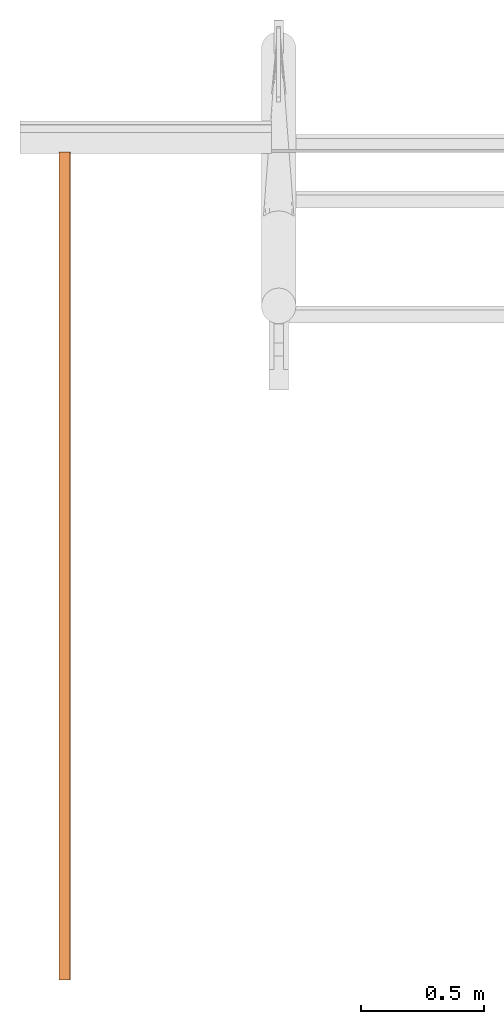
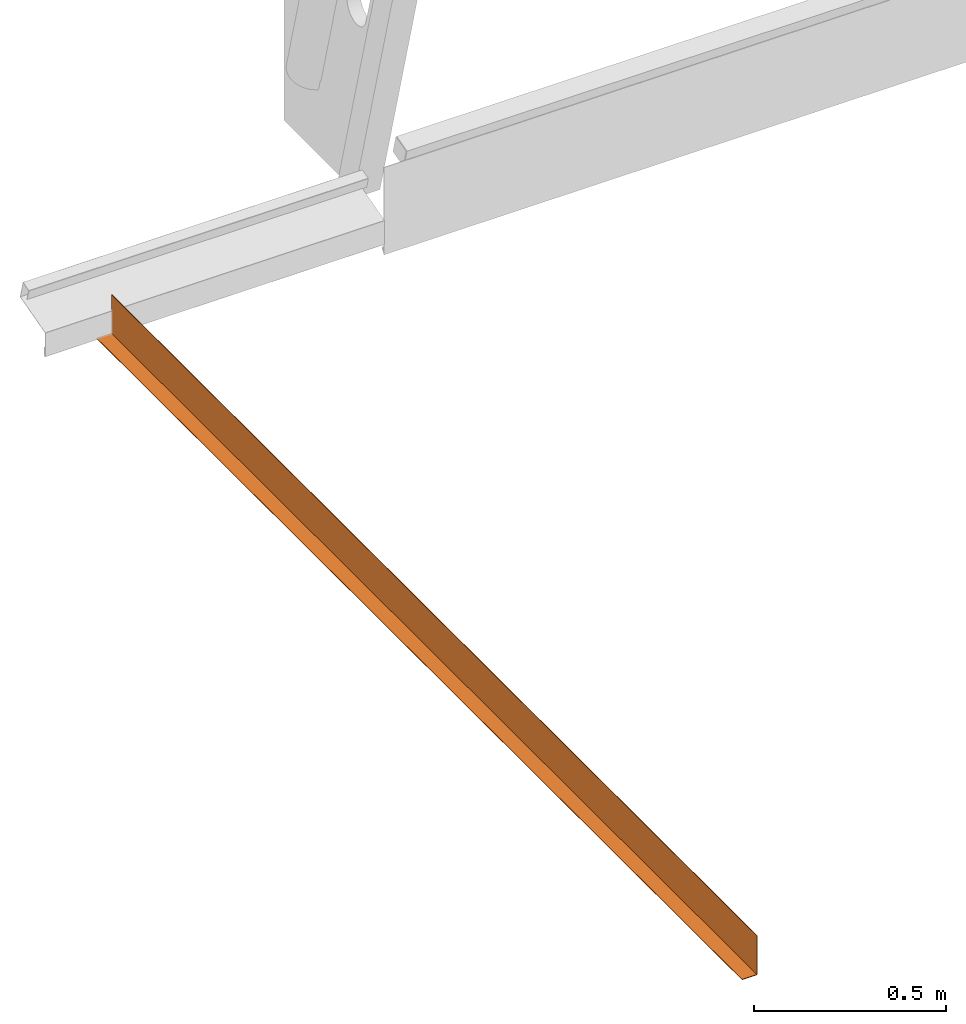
# One storey, part 2 of 3: 1 proxy.
"""IFC2X3 building model written with IfcOpenShell, lengths in millimetres."""

from ifc_helpers import new_model, entity, si_unit, converted_unit, derived_unit, direction, frame, origin, origin_with_axes, place, context, subcontext, project, spatial, faceted_brep, material, type_object, element, save


model = new_model("IFC2X3")

# Units and contexts
model_context = context("Model", 3, precision=0.01, world=origin(), true_north=direction((6.12303176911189e-17, 1.0)))
plan_context = context("Plan", 3, precision=1e-05, world=origin_with_axes())
body_context = subcontext(model_context, "Body", "Model", "MODEL_VIEW")
ifc_project = project(units=[converted_unit("PLANEANGLEUNIT", "DEGREE", entity("IfcPositiveLengthMeasure", 0.0174532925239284), si_unit("PLANEANGLEUNIT", "RADIAN"), dimensions=[0, 0, 0, 0, 0, 0, 0]), si_unit("AREAUNIT", "SQUARE_METRE"), si_unit("LENGTHUNIT", "METRE", prefix="MILLI"), si_unit("MASSUNIT", "GRAM", prefix="KILO"), si_unit("POWERUNIT", "WATT"), si_unit("PRESSUREUNIT", "PASCAL"), si_unit("FORCEUNIT", "NEWTON", prefix="KILO"), si_unit("ELECTRICVOLTAGEUNIT", "VOLT"), si_unit("ELECTRICCURRENTUNIT", "AMPERE"), si_unit("THERMODYNAMICTEMPERATUREUNIT", "DEGREE_CELSIUS"), si_unit("TIMEUNIT", "SECOND"), si_unit("VOLUMEUNIT", "CUBIC_METRE"), derived_unit("LINEARVELOCITYUNIT", [(si_unit("LENGTHUNIT", "METRE"), 1), (si_unit("TIMEUNIT", "SECOND"), -1)]), derived_unit("VOLUMETRICFLOWRATEUNIT", [(si_unit("VOLUMEUNIT", "CUBIC_METRE"), 1), (si_unit("TIMEUNIT", "SECOND"), -1)]), derived_unit("THERMALTRANSMITTANCEUNIT", [(si_unit("POWERUNIT", "WATT"), 1), (si_unit("THERMODYNAMICTEMPERATUREUNIT", "KELVIN"), -1), (si_unit("AREAUNIT", "SQUARE_METRE"), -1)]), derived_unit("SOUNDPRESSUREUNIT", [(si_unit("PRESSUREUNIT", "PASCAL"), 1)])], contexts=[model_context, plan_context])

# Site, building, storey
site_placement = place(None, frame((2314154.5009392, 1029894.10887124, 0.0), z_axis=(0.0, 0.0, 1.0), x_axis=(1.0, 0.0, 0.0)))
site = spatial("IfcSite", under=ifc_project, at=site_placement, Name="Default", CompositionType="ELEMENT")
building_placement = place(site_placement, origin_with_axes())
building = spatial("IfcBuilding", under=site, at=building_placement, CompositionType="ELEMENT")
storey_placement = place(building_placement, frame((0.0, 0.0, 9050.0), z_axis=(0.0, 0.0, 1.0), x_axis=(1.0, 0.0, 0.0)))
storey = spatial("IfcBuildingStorey", under=building, at=storey_placement, Name="XX - C +9,05", CompositionType="ELEMENT", Elevation=9050.0)

# Proxy
ifc_material = material(Name="_NSW Stål")
building_element_proxy_type = type_object("IfcBuildingElementProxyType", Name="Hjørnedetalj-Sydøst7:Hjørnedetalj-Sydøst", PredefinedType="NOTDEFINED", material=ifc_material)
proxy_placement = place(storey_placement, frame((0.0, 0.0, -9050.0), z_axis=(0.0, 0.0, 1.0), x_axis=(1.0, 0.0, 0.0)))
element("IfcBuildingElementProxy", 1, at=proxy_placement, inside=storey, type_object=building_element_proxy_type, Name="Hjørnedetalj-Sydøst7:Hjørnedetalj-Sydøst", ObjectType="Hjørnedetalj-Sydøst7:Hjørnedetalj-Sydøst", context=body_context, shape_type="Brep", body=[
    faceted_brep([(103213.420674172, -42335.391029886, 9163.0), (103213.420674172, -42335.391029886, 9284.99979513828), (103213.420674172, -38969.4514097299, 9284.99979513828), (103213.420674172, -38969.4514097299, 9163.0), (103213.375097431, -42335.391029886, 9162.479055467), (103213.375097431, -38969.4514097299, 9162.479055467), (103213.239752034, -42335.391029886, 9161.97393957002), (103213.239752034, -38969.4514097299, 9161.97393957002), (103213.018750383, -42335.391029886, 9161.5), (103213.018750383, -38969.4514097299, 9161.5), (103212.718807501, -42335.391029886, 9161.07163717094), (103212.718807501, -38969.4514097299, 9161.07163717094), (103212.349037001, -42335.391029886, 9160.70186667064), (103212.349037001, -38969.4514097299, 9160.70186667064), (103211.920674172, -42335.391029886, 9160.40192378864), (103211.920674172, -38969.4514097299, 9160.40192378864), (103211.446734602, -42335.391029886, 9160.18092213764), (103211.446734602, -38969.4514097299, 9160.18092213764), (103210.941618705, -42335.391029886, 9160.04557674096), (103210.941618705, -38969.4514097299, 9160.04557674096), (103210.420674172, -42335.391029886, 9160.0), (103210.420674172, -38969.4514097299, 9160.0), (103166.876262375, -42335.391029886, 9160.0), (103166.876262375, -38969.4514097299, 9160.0), (103166.876262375, -42335.391029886, 9162.0), (103166.876262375, -38969.4514097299, 9162.0), (103211.420674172, -42335.391029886, 9162.0), (103211.420674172, -38969.4514097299, 9162.0), (103211.420674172, -42335.391029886, 9284.99979513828), (103211.420674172, -38969.4514097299, 9284.99979513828)], [[[0, 1, 2, 3]], [[4, 0, 3, 5]], [[6, 4, 5, 7]], [[8, 6, 7, 9]], [[10, 8, 9, 11]], [[12, 10, 11, 13]], [[14, 12, 13, 15]], [[16, 14, 15, 17]], [[18, 16, 17, 19]], [[20, 18, 19, 21]], [[22, 20, 21, 23]], [[24, 22, 23, 25]], [[26, 24, 25, 27]], [[28, 26, 27, 29]], [[1, 28, 29, 2]], [[3, 2, 29, 27, 25, 23, 21, 19, 17, 15, 13, 11, 9, 7, 5]], [[4, 6, 8, 10, 12, 14, 16, 18, 20, 22, 24, 26, 28, 1, 0]]], orient=[[False], [False], [False], [False], [False], [False], [False], [False], [False], [False], [False], [False], [False], [False], [False], [False], [False]]),
])

save(model, "model.ifc")
